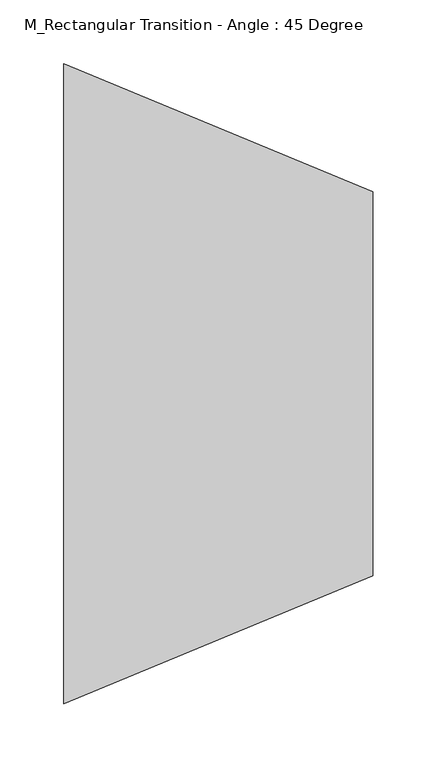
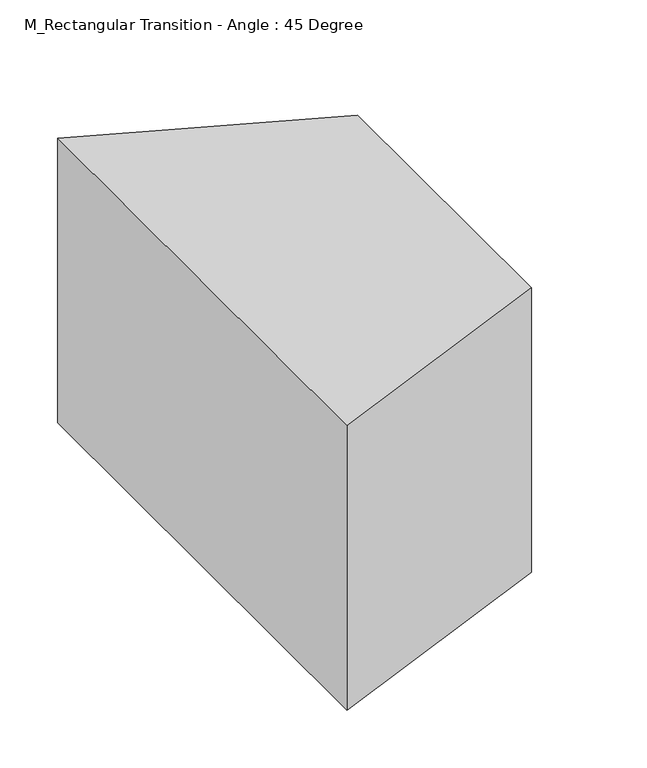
"""IFC4 building model written with IfcOpenShell, lengths in millimetres: duct fitting geometry, M_Rectangular Transition - Angle : 45 Degree."""

from ifc_helpers import new_model, si_unit, frame, origin, place, context, project, spatial, polyline, outline, extrude, source, transform, mapped, element, save


def m_rectangular_transition_angle_45_degree_78177127(model_context):
    return source(origin(), model_context, "Body", "SweptSolid", [
        extrude(outline(polyline([(-250.0, 0.0), (250.0, 0.0), (150.0, -241.4213562), (-150.0, -241.4213562), (-250.0, 0.0)])), frame((0.0, 0.0, -150.0), z_axis=(-1.2744093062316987e-12, 0.0, 1.0), x_axis=(0.0, 1.0, 0.0)), (0.0, 0.0, 1.0), 300.0),
        extrude(outline(polyline([(0.0, -250.0), (0.0, 250.0), (241.4213562, 150.0), (241.4213562, -150.0), (0.0, -250.0)])), frame((0.0, 0.0, -150.0), z_axis=(0.0, 0.0, 1.0), x_axis=(1.0, 0.0, 0.0)), (0.0, 0.0, 1.0), 300.0),
        extrude(outline(polyline([(0.0, -250.0), (0.0, 250.0), (241.4213562, 150.0), (241.4213562, -150.0), (0.0, -250.0)])), frame((0.0, 0.0, -150.0), z_axis=(0.0, 0.0, 1.0), x_axis=(1.0, 0.0, 0.0)), (0.0, 0.0, 1.0), 300.0),
    ])


if __name__ == "__main__":
    model = new_model("IFC4")
    model_context = context("Model", 3, world=origin())
    ifc_project = project(units=[si_unit("LENGTHUNIT", "METRE", prefix="MILLI")], contexts=[model_context])
    site = spatial("IfcSite", under=ifc_project)
    building = spatial("IfcBuilding", under=site)
    placement = place(None, origin())
    m_rectangular_transition_angle_45_degree_shape = m_rectangular_transition_angle_45_degree_78177127(model_context)
    element("IfcDuctFitting", 1, ObjectType="M_Rectangular Transition - Angle : 45 Degree", at=placement, inside=building, context=model_context, shape_type="MappedRepresentation", body=[
        mapped(m_rectangular_transition_angle_45_degree_shape, transform((0.0, 0.0, 0.0), x_axis=(1.0, 0.0, 0.0), y_axis=(0.0, 1.0, 0.0), z_axis=(0.0, 0.0, 1.0))),
    ])
    save(model, "model.ifc")
